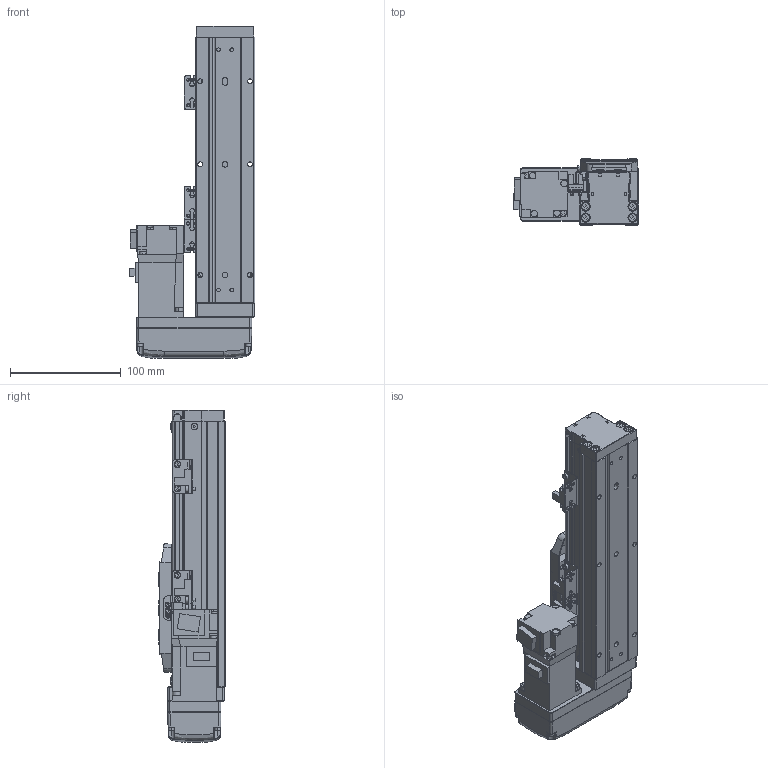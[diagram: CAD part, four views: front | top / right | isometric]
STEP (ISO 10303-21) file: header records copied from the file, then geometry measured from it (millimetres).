
FILE_DESCRIPTION (( 'STEP AP203' ), '1' );
FILE_NAME ('GTH5-100-BL-M10-C4.step', '2022-09-23T00:43:25', ( '微软用户' ), ( '微软中国' ), 'SwSTEP 2.0', 'SolidWorks 2020', '' );
FILE_SCHEMA (( 'CONFIG_CONTROL_DESIGN' ));
Length unit declared in the file: millimetre
Products named in the file (19): GTH50-026; GTH50-001_100; GTH50-024; GTH5-100-BL-M10-C4; GBT 70.1-M4×16; GBT 70.1-M2.5×6; GTH50-003; GTH50-028; GTH50-006; GTH50-013; GTH50-022-1; GTH50-004; GTH50-023; HG-KR13; GBT 70.3-M3℅6; GBT 70.1-M3℅6; GTH50-027-1_BTHA50-027-2; BTH-M3X5X6; GBT96.1-2002 3×0.8
Assembly tree (57 placements, depth 2):
  GTH5-100-BL-M10-C4
    GTH50-006
    GTH50-004
    GBT 70.3-M3℅6  x4
    BTH-M3X5X6  x8
    GTH50-001_100
    GBT 70.1-M4×16  x8
    GTH50-003
    GTH50-013
    GTH50-023  x3
    GBT 70.1-M3℅6  x12
    GBT96.1-2002 3×0.8  x6
    GTH50-024  x3
    GBT 70.1-M2.5×6  x2
    GTH50-028  x2
    GTH50-022-1
    HG-KR13
    GTH50-027-1_BTHA50-027-2
    GTH50-026
Bounding box: 113.8 x 60 x 300 mm (x, y, z)
Volume: 794757.7 mm3; surface area: 183115.6 mm2
Topology: 59 solids, 59 shells, 2140 faces, 4956 edges, 3036 vertices
Faces by surface type: plane 1142, cylinder 569, cone 219, torus 162, bspline 40, sphere 8
Entity records: 39420 total; most frequent: CARTESIAN_POINT 7827, DIRECTION 6045, ORIENTED_EDGE 5826, EDGE_CURVE 2913, AXIS2_PLACEMENT_3D 2092, LINE 1861, VECTOR 1861, VERTEX_POINT 1838
